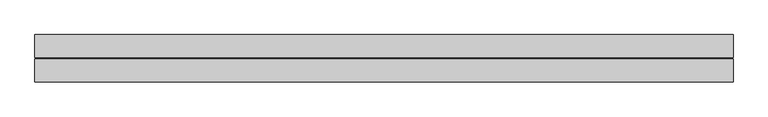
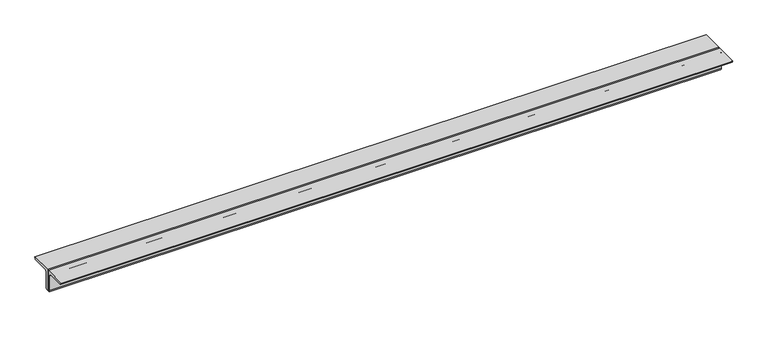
"""IFC4 building model written with IfcOpenShell, lengths in millimetres: beam geometry, Profilati doppi a L : DCED150x12."""

from ifc_helpers import new_model, si_unit, point, frame, frame_2d, origin, place, context, project, spatial, polyline, circle_curve, trimmed, segment, composite_curve, outline, extrude, source, transform, mapped, element, save


def beam_a9633d2a(model_context):
    return source(origin(), model_context, "Body", "SweptSolid", [
        extrude(outline(composite_curve([segment(polyline([(6.0, 42.4), (156.0, 42.4)]), True, "CONTINUOUS"), segment(trimmed(circle_curve(frame_2d((141.0, 42.4)), 15.0), [point((156.0, 42.4))], [point((141.0, 27.4))], False, "CARTESIAN"), True, "CONTINUOUS"), segment(polyline([(141.0, 27.4), (36.0, 27.4)]), True, "CONTINUOUS"), segment(trimmed(circle_curve(frame_2d((36.0, 12.4)), 15.0), [point((36.0, 27.4))], [point((21.0, 12.4))], True, "CARTESIAN"), True, "CONTINUOUS"), segment(polyline([(21.0, 12.4), (21.0, -92.6)]), True, "CONTINUOUS"), segment(trimmed(circle_curve(frame_2d((6.0, -92.6)), 15.0), [point((21.0, -92.6))], [point((6.0, -107.6))], False, "CARTESIAN"), True, "CONTINUOUS"), segment(polyline([(6.0, -107.6), (6.0, 42.4)]), True, "CONTINUOUS")], self_intersect=False)), frame((-1985.0, 0.0, 0.0), z_axis=(1.0, 0.0, 0.0), x_axis=(0.0, 1.0, 0.0)), (0.0, 0.0, 1.0), 4605.0),
        extrude(outline(composite_curve([segment(polyline([(-6.0, 42.4), (-6.0, -107.6)]), True, "CONTINUOUS"), segment(trimmed(circle_curve(frame_2d((-6.0, -92.6)), 15.0), [point((-6.0, -107.6))], [point((-21.0, -92.6))], False, "CARTESIAN"), True, "CONTINUOUS"), segment(polyline([(-21.0, -92.6), (-21.0, 12.4)]), True, "CONTINUOUS"), segment(trimmed(circle_curve(frame_2d((-36.0, 12.4)), 15.0), [point((-21.0, 12.4))], [point((-36.0, 27.4))], True, "CARTESIAN"), True, "CONTINUOUS"), segment(polyline([(-36.0, 27.4), (-141.0, 27.4)]), True, "CONTINUOUS"), segment(trimmed(circle_curve(frame_2d((-141.0, 42.4)), 15.0), [point((-141.0, 27.4))], [point((-156.0, 42.4))], False, "CARTESIAN"), True, "CONTINUOUS"), segment(polyline([(-156.0, 42.4), (-6.0, 42.4)]), True, "CONTINUOUS")], self_intersect=False)), frame((-1985.0, 0.0, 0.0), z_axis=(1.0, 0.0, 0.0), x_axis=(0.0, 1.0, 0.0)), (0.0, 0.0, 1.0), 4605.0),
    ])


if __name__ == "__main__":
    model = new_model("IFC4")
    model_context = context("Model", 3, world=origin())
    ifc_project = project(units=[si_unit("LENGTHUNIT", "METRE", prefix="MILLI")], contexts=[model_context])
    site = spatial("IfcSite", under=ifc_project)
    building = spatial("IfcBuilding", under=site)
    placement = place(None, origin())
    beam_shape = beam_a9633d2a(model_context)
    element("IfcBeam", 1, ObjectType="Profilati doppi a L : DCED150x12", at=placement, inside=building, context=model_context, shape_type="MappedRepresentation", body=[
        mapped(beam_shape, transform((0.0, 0.0, 0.0), x_axis=(1.0, 0.0, 0.0), y_axis=(0.0, 1.0, 0.0), z_axis=(0.0, 0.0, 1.0))),
    ])
    save(model, "model.ifc")
